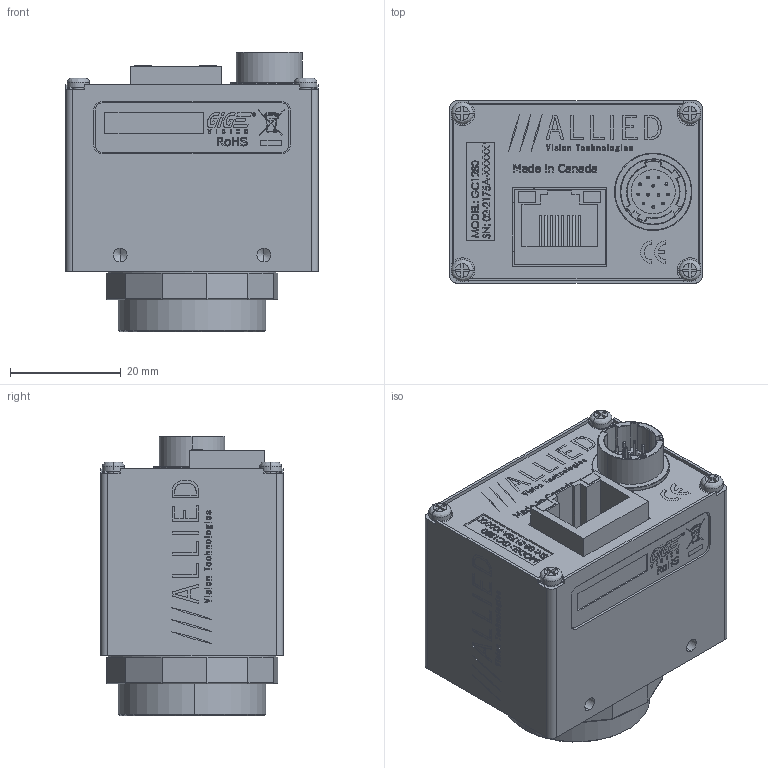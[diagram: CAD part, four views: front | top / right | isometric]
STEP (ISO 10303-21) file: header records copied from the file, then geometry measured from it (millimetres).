
FILE_DESCRIPTION (( 'STEP AP214' ), '1' );
FILE_NAME ('GC1280.STEP', '2013-07-31T18:43:12', ( '' ), ( '' ), 'SwSTEP 2.0', 'SolidWorks 2013', '' );
FILE_SCHEMA (( 'AUTOMOTIVE_DESIGN' ));
Length unit declared in the file: millimetre
Products named in the file (20): 110043A GC BACK PLATE; 110043A GC BACK PLATE - WO HW; 200047A-A GC INTERFACE PCB ASSY; 260033-AMPHENOL RJHS-3381; 140018-SCREW PAN M2x8 SS; 740123A-GC MAC LABEL; 740071AA-GC1280M LABEL PRINT; 110047B-GC-CMOS FRONT_Finished with logo; 110003AC-CV CMOUNT RING; 140013-washer spring lock M2; 110031A-B EC-CCD LOCKING RING; 740032B-GC MAIN LABEL; 140017-SCREW PAN M2x4 SS; 200026AA-PCB ASSEMBLY EC1280M SENSOR-with sensor; GC1280; 220021-FILLFACTORY IBIS5A-1300M; IBIS5 DIE; IBIS5 WINDOW; 260034-HIROSE HR10A-10R-12PB; IBIS5 PACKAGE
Assembly tree (24 placements, depth 4):
  GC1280
    140017-SCREW PAN M2x4 SS  x4
    740032B-GC MAIN LABEL
    110031A-B EC-CCD LOCKING RING
    140013-washer spring lock M2  x2
    110003AC-CV CMOUNT RING
    110047B-GC-CMOS FRONT_Finished with logo
    740071AA-GC1280M LABEL PRINT
    740123A-GC MAC LABEL
    140018-SCREW PAN M2x8 SS  x2
    200047A-A GC INTERFACE PCB ASSY
      260033-AMPHENOL RJHS-3381
    110043A GC BACK PLATE
      110043A GC BACK PLATE - WO HW
    200026AA-PCB ASSEMBLY EC1280M SENSOR-with sensor
      220021-FILLFACTORY IBIS5A-1300M
        IBIS5 PACKAGE
        IBIS5 WINDOW
        IBIS5 DIE
    260034-HIROSE HR10A-10R-12PB
Bounding box: 45.72 x 33.02 x 50.59 mm (x, y, z)
Volume: 18845 mm3; surface area: 27749.5 mm2
Topology: 20 solids, 20 shells, 3877 faces, 10367 edges, 6784 vertices
Faces by surface type: plane 2420, bspline 911, cylinder 370, cone 176
Entity records: 191155 total; most frequent: CARTESIAN_POINT 60766, ORIENTED_EDGE 19994, DIRECTION 14877, EDGE_CURVE 9997, VECTOR 7315, LINE 7315, VERTEX_POINT 6594, EDGE_LOOP 4135
